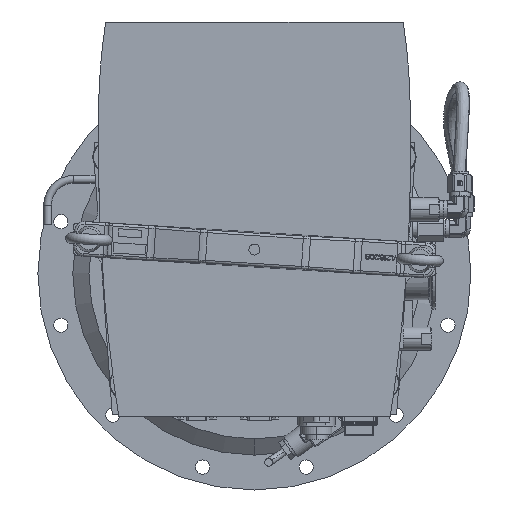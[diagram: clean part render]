
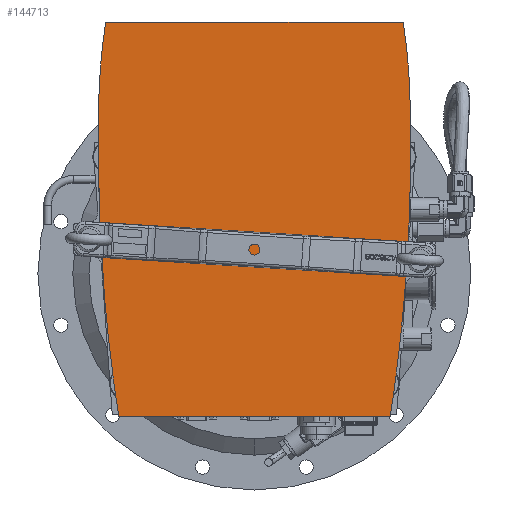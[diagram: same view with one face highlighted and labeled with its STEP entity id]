
A CAD part, front view. The second image highlights one B-rep face of the part: STEP entity #144713.
In plain terms, the highlighted planar face has unit normal (0, -1, 0).
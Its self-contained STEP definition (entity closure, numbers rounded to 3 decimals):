
#34877=CARTESIAN_POINT('',(340.523,-133.4,124.5));
#34878=DIRECTION('',(0.,-1.,0.));
#34879=DIRECTION('',(-0.988,0.,0.152));
#34880=AXIS2_PLACEMENT_3D('',#34877,#34878,#34879);
#34882=DIRECTION('',(-1.,0.,0.));
#34883=VECTOR('',#34882,230.2);
#34884=CARTESIAN_POINT('',(115.1,-133.4,194.5));
#34885=LINE('',#34884,#34883);
#34886=CARTESIAN_POINT('',(-340.523,-133.4,124.5));
#34887=DIRECTION('',(0.,-1.,0.));
#34888=DIRECTION('',(1.,0.,0.028));
#34889=AXIS2_PLACEMENT_3D('',#34886,#34887,#34888);
#34891=CARTESIAN_POINT('',(-1282.134,-133.4,98.253));
#34892=DIRECTION('',(0.,-1.,0.));
#34893=DIRECTION('',(1.,0.,-0.027));
#34894=AXIS2_PLACEMENT_3D('',#34891,#34892,#34893);
#34896=DIRECTION('',(0.035,0.,0.999));
#34897=VECTOR('',#34896,20.925);
#34898=CARTESIAN_POINT('',(119.563,-133.4,39.08));
#34899=LINE('',#34898,#34897);
#34900=CARTESIAN_POINT('',(-1282.134,-133.4,98.253));
#34901=DIRECTION('',(0.,-1.,0.));
#34902=DIRECTION('',(0.997,0.,-0.083));
#34903=AXIS2_PLACEMENT_3D('',#34900,#34901,#34902);
#34905=CARTESIAN_POINT('',(-1177.573,-133.4,89.5));
#34906=DIRECTION('',(0.,-1.,0.));
#34907=DIRECTION('',(0.995,0.,-0.1));
#34908=AXIS2_PLACEMENT_3D('',#34905,#34906,#34907);
#34910=DIRECTION('',(0.105,0.,0.994));
#34911=VECTOR('',#34910,21.677);
#34912=CARTESIAN_POINT('',(111.7,-133.4,-61.39));
#34913=LINE('',#34912,#34911);
#34914=CARTESIAN_POINT('',(-1177.573,-133.4,89.5));
#34915=DIRECTION('',(0.,-1.,0.));
#34916=DIRECTION('',(0.988,0.,-0.154));
#34917=AXIS2_PLACEMENT_3D('',#34914,#34915,#34916);
#34919=DIRECTION('',(1.,0.,0.));
#34920=VECTOR('',#34919,209.945);
#34921=CARTESIAN_POINT('',(-104.945,-133.4,-110.5));
#34922=LINE('',#34921,#34920);
#34923=CARTESIAN_POINT('',(1177.573,-133.4,89.5));
#34924=DIRECTION('',(0.,-1.,0.));
#34925=DIRECTION('',(-0.997,0.,-0.084));
#34926=AXIS2_PLACEMENT_3D('',#34923,#34924,#34925);
#34928=CARTESIAN_POINT('',(1281.834,-133.4,98.245));
#34929=DIRECTION('',(0.,-1.,0.));
#34930=DIRECTION('',(-1.,0.,0.028));
#34931=AXIS2_PLACEMENT_3D('',#34928,#34929,#34930);
#66714=CARTESIAN_POINT('',(-115.1,-133.4,194.5));
#66715=CARTESIAN_POINT('',(-120.267,-133.4,137.352));
#66716=VERTEX_POINT('',#66714);
#66717=VERTEX_POINT('',#66715);
#66718=CARTESIAN_POINT('',(-115.904,-133.4,-18.989));
#66719=VERTEX_POINT('',#66718);
#66720=CARTESIAN_POINT('',(-104.945,-133.4,-110.5));
#66721=VERTEX_POINT('',#66720);
#66722=CARTESIAN_POINT('',(105.,-133.4,-110.5));
#66723=VERTEX_POINT('',#66722);
#66724=CARTESIAN_POINT('',(111.7,-133.4,-61.39));
#66725=VERTEX_POINT('',#66724);
#66726=CARTESIAN_POINT('',(113.987,-133.4,-39.834));
#66727=VERTEX_POINT('',#66726);
#66728=CARTESIAN_POINT('',(115.922,-133.4,-18.782));
#66729=VERTEX_POINT('',#66728);
#66730=CARTESIAN_POINT('',(119.563,-133.4,39.08));
#66731=VERTEX_POINT('',#66730);
#66732=CARTESIAN_POINT('',(120.29,-133.4,59.992));
#66733=VERTEX_POINT('',#66732);
#66734=CARTESIAN_POINT('',(120.267,-133.4,137.344));
#66735=VERTEX_POINT('',#66734);
#66736=CARTESIAN_POINT('',(115.1,-133.4,194.5));
#66737=VERTEX_POINT('',#66736);
#144687=CARTESIAN_POINT('',(0.,-133.4,195.5));
#144688=DIRECTION('',(0.,-1.,0.));
#144689=DIRECTION('',(1.,0.,0.));
#144690=AXIS2_PLACEMENT_3D('',#144687,#144688,#144689);
#144691=PLANE('',#144690);
#144692=ORIENTED_EDGE('',*,*,#143548,.F.);
#144693=ORIENTED_EDGE('',*,*,#143533,.F.);
#144694=ORIENTED_EDGE('',*,*,#143518,.F.);
#144695=ORIENTED_EDGE('',*,*,#143502,.F.);
#144697=ORIENTED_EDGE('',*,*,#144696,.F.);
#144699=ORIENTED_EDGE('',*,*,#144698,.F.);
#144701=ORIENTED_EDGE('',*,*,#144700,.F.);
#144703=ORIENTED_EDGE('',*,*,#144702,.F.);
#144705=ORIENTED_EDGE('',*,*,#144704,.F.);
#144707=ORIENTED_EDGE('',*,*,#144706,.F.);
#144709=ORIENTED_EDGE('',*,*,#144708,.F.);
#144710=ORIENTED_EDGE('',*,*,#143350,.F.);
#144711=EDGE_LOOP('',(#144692,#144693,#144694,#144695,#144697,#144699,#144701,
#144703,#144705,#144707,#144709,#144710));
#144712=FACE_OUTER_BOUND('',#144711,.F.);
#144713=ADVANCED_FACE('',(#144712),#144691,.T.);
#34881=CIRCLE('',#34880,460.969);
#34890=CIRCLE('',#34889,460.969);
#34895=CIRCLE('',#34894,1402.946);
#34904=CIRCLE('',#34903,1402.946);
#34909=CIRCLE('',#34908,1298.019);
#34918=CIRCLE('',#34917,1298.073);
#34927=CIRCLE('',#34926,1298.019);
#34932=CIRCLE('',#34931,1402.646);
#143350=EDGE_CURVE('',#66717,#66719,#34932,.T.);
#143502=EDGE_CURVE('',#66733,#66735,#34895,.T.);
#143518=EDGE_CURVE('',#66735,#66737,#34890,.T.);
#143533=EDGE_CURVE('',#66737,#66716,#34885,.T.);
#143548=EDGE_CURVE('',#66716,#66717,#34881,.T.);
#144696=EDGE_CURVE('',#66731,#66733,#34899,.T.);
#144698=EDGE_CURVE('',#66729,#66731,#34904,.T.);
#144700=EDGE_CURVE('',#66727,#66729,#34909,.T.);
#144702=EDGE_CURVE('',#66725,#66727,#34913,.T.);
#144704=EDGE_CURVE('',#66723,#66725,#34918,.T.);
#144706=EDGE_CURVE('',#66721,#66723,#34922,.T.);
#144708=EDGE_CURVE('',#66719,#66721,#34927,.T.);
